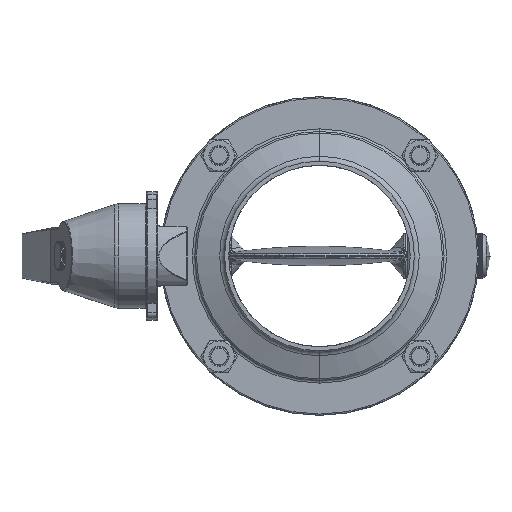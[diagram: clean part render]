
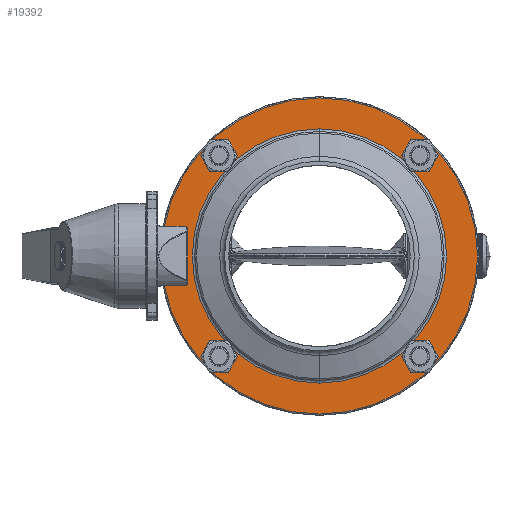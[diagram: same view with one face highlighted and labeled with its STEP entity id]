
A CAD part, front view. The second image highlights one B-rep face of the part: STEP entity #19392.
In plain terms, the highlighted planar face has unit normal (0, -1, 0) as drawn and (0, 1, 0) by its records, which use the part's own axes.
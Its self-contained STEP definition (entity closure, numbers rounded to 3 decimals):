
#452 = CARTESIAN_POINT ( 'NONE',  ( 40.305, 10.9, 37.005 ) ) ;
#995 = VERTEX_POINT ( 'NONE', #30822 ) ;
#1437 = AXIS2_PLACEMENT_3D ( 'NONE', #3498, #11504, #93644 ) ;
#2477 = CIRCLE ( 'NONE', #67283, 3.3 ) ;
#3498 = CARTESIAN_POINT ( 'NONE',  ( 0., 10.9, 0. ) ) ;
#3653 = VERTEX_POINT ( 'NONE', #48516 ) ;
#3741 = CIRCLE ( 'NONE', #66627, 3.3 ) ;
#5342 = ORIENTED_EDGE ( 'NONE', *, *, #75006, .T. ) ;
#5842 = ORIENTED_EDGE ( 'NONE', *, *, #93967, .F. ) ;
#8638 = CIRCLE ( 'NONE', #61737, 3.3 ) ;
#8751 = ORIENTED_EDGE ( 'NONE', *, *, #88088, .F. ) ;
#11423 = CIRCLE ( 'NONE', #51883, 3.3 ) ;
#11504 = DIRECTION ( 'NONE',  ( 0., -1., 0. ) ) ;
#12360 = DIRECTION ( 'NONE',  ( 0., 0., -1. ) ) ;
#12619 = EDGE_LOOP ( 'NONE', ( #66811, #56165 ) ) ;
#14879 = DIRECTION ( 'NONE',  ( 0., 0., 1. ) ) ;
#15554 = CIRCLE ( 'NONE', #22801, 63.5 ) ;
#16654 = CARTESIAN_POINT ( 'NONE',  ( 40.305, 10.9, 40.305 ) ) ;
#17520 = ORIENTED_EDGE ( 'NONE', *, *, #26321, .F. ) ;
#17614 = EDGE_CURVE ( 'NONE', #995, #102213, #2477, .T. ) ;
#19392 = ADVANCED_FACE ( 'NONE', ( #49675, #27205, #60830, #65851, #100814, #39724 ), #21016, .T. ) ;
#20759 = DIRECTION ( 'NONE',  ( 0., 0., 1. ) ) ;
#21016 = PLANE ( 'NONE',  #89459 ) ;
#22094 = CARTESIAN_POINT ( 'NONE',  ( -40.305, 10.9, -43.605 ) ) ;
#22801 = AXIS2_PLACEMENT_3D ( 'NONE', #102335, #54493, #38937 ) ;
#24012 = EDGE_LOOP ( 'NONE', ( #79181, #5842 ) ) ;
#25794 = DIRECTION ( 'NONE',  ( 0., 0., -1. ) ) ;
#26321 = EDGE_CURVE ( 'NONE', #27425, #89485, #77638, .T. ) ;
#27205 = FACE_BOUND ( 'NONE', #90017, .T. ) ;
#27208 = AXIS2_PLACEMENT_3D ( 'NONE', #55170, #79551, #87631 ) ;
#27425 = VERTEX_POINT ( 'NONE', #42307 ) ;
#29305 = DIRECTION ( 'NONE',  ( 0., -1., 0. ) ) ;
#29666 = CARTESIAN_POINT ( 'NONE',  ( 0., 10.9, -63.5 ) ) ;
#30822 = CARTESIAN_POINT ( 'NONE',  ( 40.305, 10.9, -43.605 ) ) ;
#30893 = DIRECTION ( 'NONE',  ( 0., 1., 0. ) ) ;
#32225 = VERTEX_POINT ( 'NONE', #22094 ) ;
#33751 = CARTESIAN_POINT ( 'NONE',  ( 40.305, 10.9, -37.005 ) ) ;
#34189 = AXIS2_PLACEMENT_3D ( 'NONE', #83687, #43024, #12360 ) ;
#35122 = DIRECTION ( 'NONE',  ( -1., 0., 0. ) ) ;
#35796 = VERTEX_POINT ( 'NONE', #82428 ) ;
#35798 = CARTESIAN_POINT ( 'NONE',  ( 40.305, 10.9, -40.305 ) ) ;
#36740 = DIRECTION ( 'NONE',  ( 0., 0., 1. ) ) ;
#37326 = DIRECTION ( 'NONE',  ( 0., 0., -1. ) ) ;
#38372 = DIRECTION ( 'NONE',  ( -1., 0., 0. ) ) ;
#38937 = DIRECTION ( 'NONE',  ( 0., 0., -1. ) ) ;
#39724 = FACE_OUTER_BOUND ( 'NONE', #67613, .T. ) ;
#40096 = CARTESIAN_POINT ( 'NONE',  ( -40.305, 10.9, -40.305 ) ) ;
#40336 = CIRCLE ( 'NONE', #41637, 3.3 ) ;
#41027 = VERTEX_POINT ( 'NONE', #79252 ) ;
#41637 = AXIS2_PLACEMENT_3D ( 'NONE', #40096, #96181, #64734 ) ;
#42307 = CARTESIAN_POINT ( 'NONE',  ( -40.305, 10.9, 37.005 ) ) ;
#42591 = CIRCLE ( 'NONE', #34189, 51.05 ) ;
#43024 = DIRECTION ( 'NONE',  ( 0., -1., 0. ) ) ;
#45721 = DIRECTION ( 'NONE',  ( 0., 0., -1. ) ) ;
#47053 = DIRECTION ( 'NONE',  ( 0., 1., 0. ) ) ;
#48516 = CARTESIAN_POINT ( 'NONE',  ( 0., 10.9, 63.5 ) ) ;
#48867 = EDGE_CURVE ( 'NONE', #67903, #32225, #40336, .T. ) ;
#49675 = FACE_BOUND ( 'NONE', #78627, .T. ) ;
#50474 = CARTESIAN_POINT ( 'NONE',  ( -40.305, 10.9, 40.305 ) ) ;
#50975 = CARTESIAN_POINT ( 'NONE',  ( -40.305, 10.9, -37.005 ) ) ;
#51380 = VERTEX_POINT ( 'NONE', #101386 ) ;
#51883 = AXIS2_PLACEMENT_3D ( 'NONE', #77711, #47053, #45721 ) ;
#53310 = EDGE_CURVE ( 'NONE', #35796, #97466, #3741, .T. ) ;
#54493 = DIRECTION ( 'NONE',  ( 0., -1., 0. ) ) ;
#55170 = CARTESIAN_POINT ( 'NONE',  ( -40.305, 10.9, -40.305 ) ) ;
#56165 = ORIENTED_EDGE ( 'NONE', *, *, #17614, .F. ) ;
#57222 = AXIS2_PLACEMENT_3D ( 'NONE', #16654, #72278, #35122 ) ;
#57632 = EDGE_CURVE ( 'NONE', #65436, #3653, #98260, .T. ) ;
#58048 = CIRCLE ( 'NONE', #57222, 3.3 ) ;
#60830 = FACE_BOUND ( 'NONE', #24012, .T. ) ;
#61737 = AXIS2_PLACEMENT_3D ( 'NONE', #62543, #30893, #14879 ) ;
#62543 = CARTESIAN_POINT ( 'NONE',  ( 40.305, 10.9, -40.305 ) ) ;
#63891 = EDGE_LOOP ( 'NONE', ( #95484, #5342 ) ) ;
#64024 = AXIS2_PLACEMENT_3D ( 'NONE', #50474, #65789, #25794 ) ;
#64274 = EDGE_CURVE ( 'NONE', #51380, #41027, #81516, .T. ) ;
#64734 = DIRECTION ( 'NONE',  ( 1., 0., 0. ) ) ;
#65436 = VERTEX_POINT ( 'NONE', #29666 ) ;
#65789 = DIRECTION ( 'NONE',  ( 0., 1., 0. ) ) ;
#65851 = FACE_BOUND ( 'NONE', #12619, .T. ) ;
#66627 = AXIS2_PLACEMENT_3D ( 'NONE', #86402, #78002, #38372 ) ;
#66811 = ORIENTED_EDGE ( 'NONE', *, *, #77112, .F. ) ;
#67283 = AXIS2_PLACEMENT_3D ( 'NONE', #35798, #76769, #20759 ) ;
#67613 = EDGE_LOOP ( 'NONE', ( #68090, #8751 ) ) ;
#67903 = VERTEX_POINT ( 'NONE', #50975 ) ;
#68090 = ORIENTED_EDGE ( 'NONE', *, *, #57632, .F. ) ;
#69723 = ORIENTED_EDGE ( 'NONE', *, *, #84834, .F. ) ;
#72224 = AXIS2_PLACEMENT_3D ( 'NONE', #102442, #29305, #37326 ) ;
#72278 = DIRECTION ( 'NONE',  ( 0., 1., 0. ) ) ;
#75006 = EDGE_CURVE ( 'NONE', #41027, #51380, #42591, .T. ) ;
#76769 = DIRECTION ( 'NONE',  ( 0., 1., 0. ) ) ;
#77112 = EDGE_CURVE ( 'NONE', #102213, #995, #8638, .T. ) ;
#77638 = CIRCLE ( 'NONE', #64024, 3.3 ) ;
#77711 = CARTESIAN_POINT ( 'NONE',  ( -40.305, 10.9, 40.305 ) ) ;
#78002 = DIRECTION ( 'NONE',  ( 0., 1., 0. ) ) ;
#78627 = EDGE_LOOP ( 'NONE', ( #99085, #88392 ) ) ;
#79181 = ORIENTED_EDGE ( 'NONE', *, *, #53310, .F. ) ;
#79252 = CARTESIAN_POINT ( 'NONE',  ( 0., 10.9, 51.05 ) ) ;
#79551 = DIRECTION ( 'NONE',  ( 0., 1., 0. ) ) ;
#81184 = CIRCLE ( 'NONE', #27208, 3.3 ) ;
#81516 = CIRCLE ( 'NONE', #1437, 51.05 ) ;
#82428 = CARTESIAN_POINT ( 'NONE',  ( 40.305, 10.9, 43.605 ) ) ;
#83687 = CARTESIAN_POINT ( 'NONE',  ( 0., 10.9, 0. ) ) ;
#84834 = EDGE_CURVE ( 'NONE', #89485, #27425, #11423, .T. ) ;
#85088 = CARTESIAN_POINT ( 'NONE',  ( 63.5, 10.9, 0. ) ) ;
#86402 = CARTESIAN_POINT ( 'NONE',  ( 40.305, 10.9, 40.305 ) ) ;
#87631 = DIRECTION ( 'NONE',  ( 1., 0., 0. ) ) ;
#88088 = EDGE_CURVE ( 'NONE', #3653, #65436, #15554, .T. ) ;
#88392 = ORIENTED_EDGE ( 'NONE', *, *, #102624, .F. ) ;
#89459 = AXIS2_PLACEMENT_3D ( 'NONE', #85088, #92477, #36740 ) ;
#89485 = VERTEX_POINT ( 'NONE', #99297 ) ;
#90017 = EDGE_LOOP ( 'NONE', ( #69723, #17520 ) ) ;
#92477 = DIRECTION ( 'NONE',  ( 0., 1., 0. ) ) ;
#93644 = DIRECTION ( 'NONE',  ( 0., 0., -1. ) ) ;
#93967 = EDGE_CURVE ( 'NONE', #97466, #35796, #58048, .T. ) ;
#95484 = ORIENTED_EDGE ( 'NONE', *, *, #64274, .T. ) ;
#96181 = DIRECTION ( 'NONE',  ( 0., 1., 0. ) ) ;
#97466 = VERTEX_POINT ( 'NONE', #452 ) ;
#98260 = CIRCLE ( 'NONE', #72224, 63.5 ) ;
#99085 = ORIENTED_EDGE ( 'NONE', *, *, #48867, .F. ) ;
#99297 = CARTESIAN_POINT ( 'NONE',  ( -40.305, 10.9, 43.605 ) ) ;
#100814 = FACE_BOUND ( 'NONE', #63891, .T. ) ;
#101386 = CARTESIAN_POINT ( 'NONE',  ( 0., 10.9, -51.05 ) ) ;
#102213 = VERTEX_POINT ( 'NONE', #33751 ) ;
#102335 = CARTESIAN_POINT ( 'NONE',  ( 0., 10.9, 0. ) ) ;
#102442 = CARTESIAN_POINT ( 'NONE',  ( 0., 10.9, 0. ) ) ;
#102624 = EDGE_CURVE ( 'NONE', #32225, #67903, #81184, .T. ) ;
